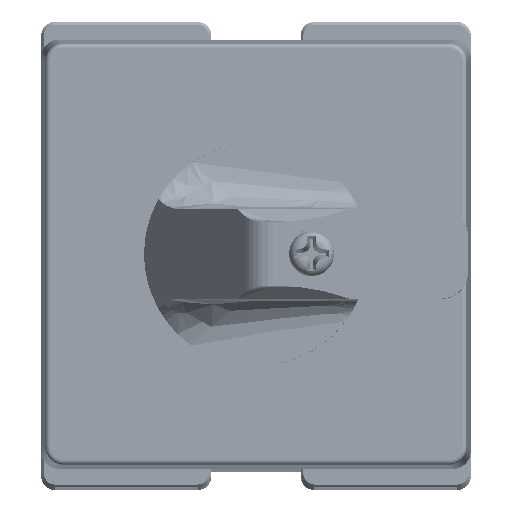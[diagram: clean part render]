
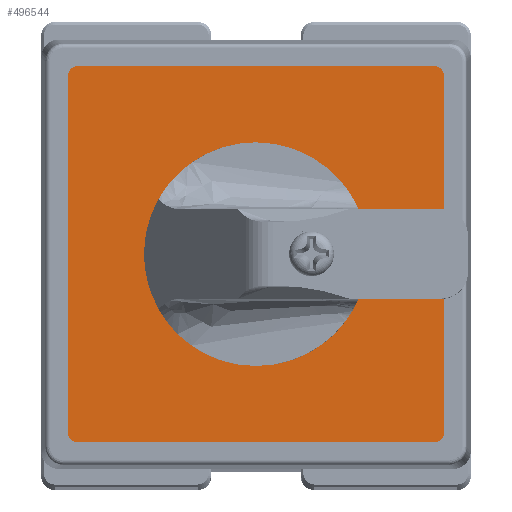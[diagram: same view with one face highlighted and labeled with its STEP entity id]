
A CAD part, top view. The second image highlights one B-rep face of the part: STEP entity #496544.
In plain terms, the highlighted planar face has unit normal (0, 0, 1).
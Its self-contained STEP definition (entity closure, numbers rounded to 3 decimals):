
#8019 = CIRCLE ( 'NONE', #497241, 10.35 ) ;
#9653 = DIRECTION ( 'NONE',  ( 0., 0., 1. ) ) ;
#32199 = EDGE_CURVE ( 'NONE', #222966, #486173, #116195, .T. ) ;
#44115 = EDGE_CURVE ( 'NONE', #336059, #452558, #8019, .T. ) ;
#44431 = CARTESIAN_POINT ( 'NONE',  ( 27.361, -25.111, 51.018 ) ) ;
#70106 = DIRECTION ( 'NONE',  ( 0., 0., 1. ) ) ;
#70383 = AXIS2_PLACEMENT_3D ( 'NONE', #173273, #369827, #448971 ) ;
#75775 = EDGE_LOOP ( 'NONE', ( #464475, #287276 ) ) ;
#77546 = LINE ( 'NONE', #193078, #324630 ) ;
#83876 = FACE_OUTER_BOUND ( 'NONE', #413853, .T. ) ;
#96095 = EDGE_CURVE ( 'NONE', #412480, #222966, #467206, .T. ) ;
#99861 = CARTESIAN_POINT ( 'NONE',  ( 26.361, 15.889, 51.018 ) ) ;
#103652 = CARTESIAN_POINT ( 'NONE',  ( 26.361, -26.111, 51.018 ) ) ;
#107941 = CARTESIAN_POINT ( 'NONE',  ( -13.639, 14.889, 51.018 ) ) ;
#116195 = LINE ( 'NONE', #44431, #344761 ) ;
#118954 = CARTESIAN_POINT ( 'NONE',  ( -13.639, -25.111, 51.018 ) ) ;
#123000 = AXIS2_PLACEMENT_3D ( 'NONE', #171462, #9653, #285377 ) ;
#124542 = DIRECTION ( 'NONE',  ( 1., 0., 0. ) ) ;
#129199 = CARTESIAN_POINT ( 'NONE',  ( 27.361, -25.111, 51.018 ) ) ;
#138728 = DIRECTION ( 'NONE',  ( 0., 0., 1. ) ) ;
#150107 = VERTEX_POINT ( 'NONE', #450010 ) ;
#156279 = AXIS2_PLACEMENT_3D ( 'NONE', #454062, #138728, #338753 ) ;
#164121 = CARTESIAN_POINT ( 'NONE',  ( 6.361, 5.239, 51.018 ) ) ;
#166631 = CARTESIAN_POINT ( 'NONE',  ( 26.361, -25.111, 51.018 ) ) ;
#167697 = VERTEX_POINT ( 'NONE', #404258 ) ;
#168472 = LINE ( 'NONE', #205630, #365791 ) ;
#171462 = CARTESIAN_POINT ( 'NONE',  ( 6.361, -5.111, 51.018 ) ) ;
#173273 = CARTESIAN_POINT ( 'NONE',  ( 26.361, 14.889, 51.018 ) ) ;
#174060 = AXIS2_PLACEMENT_3D ( 'NONE', #166631, #358110, #435397 ) ;
#193078 = CARTESIAN_POINT ( 'NONE',  ( -13.639, 15.889, 51.018 ) ) ;
#194736 = DIRECTION ( 'NONE',  ( -1., 0., 0. ) ) ;
#205630 = CARTESIAN_POINT ( 'NONE',  ( -13.639, -26.111, 51.018 ) ) ;
#212602 = DIRECTION ( 'NONE',  ( 0., 0., 1. ) ) ;
#216007 = CARTESIAN_POINT ( 'NONE',  ( 6.361, -5.111, 51.018 ) ) ;
#222966 = VERTEX_POINT ( 'NONE', #129199 ) ;
#223014 = CIRCLE ( 'NONE', #263367, 1. ) ;
#254734 = CARTESIAN_POINT ( 'NONE',  ( -14.639, -25.111, 51.018 ) ) ;
#258568 = EDGE_CURVE ( 'NONE', #274774, #305810, #399667, .T. ) ;
#260993 = EDGE_CURVE ( 'NONE', #150107, #167697, #223014, .T. ) ;
#263367 = AXIS2_PLACEMENT_3D ( 'NONE', #118954, #432545, #391286 ) ;
#264317 = VECTOR ( 'NONE', #452713, 1000. ) ;
#268267 = ORIENTED_EDGE ( 'NONE', *, *, #32199, .T. ) ;
#269251 = VERTEX_POINT ( 'NONE', #99861 ) ;
#274774 = VERTEX_POINT ( 'NONE', #335563 ) ;
#285377 = DIRECTION ( 'NONE',  ( 0., 1., 0. ) ) ;
#287276 = ORIENTED_EDGE ( 'NONE', *, *, #44115, .F. ) ;
#295736 = PLANE ( 'NONE',  #156279 ) ;
#305810 = VERTEX_POINT ( 'NONE', #437848 ) ;
#324630 = VECTOR ( 'NONE', #194736, 1000. ) ;
#331995 = LINE ( 'NONE', #254734, #264317 ) ;
#335563 = CARTESIAN_POINT ( 'NONE',  ( -13.639, 15.889, 51.018 ) ) ;
#336059 = VERTEX_POINT ( 'NONE', #164121 ) ;
#337025 = CARTESIAN_POINT ( 'NONE',  ( 6.361, -15.461, 51.018 ) ) ;
#338753 = DIRECTION ( 'NONE',  ( 0., 1., 0. ) ) ;
#344761 = VECTOR ( 'NONE', #392647, 1000. ) ;
#350736 = ORIENTED_EDGE ( 'NONE', *, *, #96095, .T. ) ;
#355077 = EDGE_CURVE ( 'NONE', #486173, #269251, #379482, .T. ) ;
#358110 = DIRECTION ( 'NONE',  ( 0., 0., 1. ) ) ;
#360943 = EDGE_CURVE ( 'NONE', #452558, #336059, #431952, .T. ) ;
#361507 = FACE_BOUND ( 'NONE', #75775, .T. ) ;
#365791 = VECTOR ( 'NONE', #124542, 1000. ) ;
#367442 = AXIS2_PLACEMENT_3D ( 'NONE', #107941, #70106, #421546 ) ;
#369827 = DIRECTION ( 'NONE',  ( 0., 0., 1. ) ) ;
#370400 = EDGE_CURVE ( 'NONE', #305810, #150107, #331995, .T. ) ;
#376161 = DIRECTION ( 'NONE',  ( 0., 1., 0. ) ) ;
#379482 = CIRCLE ( 'NONE', #70383, 1. ) ;
#391286 = DIRECTION ( 'NONE',  ( 0., -1., 0. ) ) ;
#392647 = DIRECTION ( 'NONE',  ( 0., 1., 0. ) ) ;
#399667 = CIRCLE ( 'NONE', #367442, 1. ) ;
#404258 = CARTESIAN_POINT ( 'NONE',  ( -13.639, -26.111, 51.018 ) ) ;
#411665 = ORIENTED_EDGE ( 'NONE', *, *, #370400, .T. ) ;
#412480 = VERTEX_POINT ( 'NONE', #103652 ) ;
#413853 = EDGE_LOOP ( 'NONE', ( #437266, #411665, #418500, #486053, #350736, #268267, #440674, #434504 ) ) ;
#418500 = ORIENTED_EDGE ( 'NONE', *, *, #260993, .T. ) ;
#421546 = DIRECTION ( 'NONE',  ( 0., 1., 0. ) ) ;
#431952 = CIRCLE ( 'NONE', #123000, 10.35 ) ;
#432545 = DIRECTION ( 'NONE',  ( 0., 0., 1. ) ) ;
#434504 = ORIENTED_EDGE ( 'NONE', *, *, #493353, .T. ) ;
#435397 = DIRECTION ( 'NONE',  ( 0., -1., 0. ) ) ;
#437266 = ORIENTED_EDGE ( 'NONE', *, *, #258568, .T. ) ;
#437848 = CARTESIAN_POINT ( 'NONE',  ( -14.639, 14.889, 51.018 ) ) ;
#440674 = ORIENTED_EDGE ( 'NONE', *, *, #355077, .T. ) ;
#448971 = DIRECTION ( 'NONE',  ( 0., -1., 0. ) ) ;
#450010 = CARTESIAN_POINT ( 'NONE',  ( -14.639, -25.111, 51.018 ) ) ;
#452558 = VERTEX_POINT ( 'NONE', #337025 ) ;
#452713 = DIRECTION ( 'NONE',  ( 0., -1., 0. ) ) ;
#454062 = CARTESIAN_POINT ( 'NONE',  ( -13.639, 14.889, 51.018 ) ) ;
#464475 = ORIENTED_EDGE ( 'NONE', *, *, #360943, .F. ) ;
#467206 = CIRCLE ( 'NONE', #174060, 1. ) ;
#486053 = ORIENTED_EDGE ( 'NONE', *, *, #494649, .T. ) ;
#486173 = VERTEX_POINT ( 'NONE', #509265 ) ;
#493353 = EDGE_CURVE ( 'NONE', #269251, #274774, #77546, .T. ) ;
#494649 = EDGE_CURVE ( 'NONE', #167697, #412480, #168472, .T. ) ;
#496544 = ADVANCED_FACE ( 'NONE', ( #83876, #361507 ), #295736, .T. ) ;
#497241 = AXIS2_PLACEMENT_3D ( 'NONE', #216007, #212602, #376161 ) ;
#509265 = CARTESIAN_POINT ( 'NONE',  ( 27.361, 14.889, 51.018 ) ) ;
